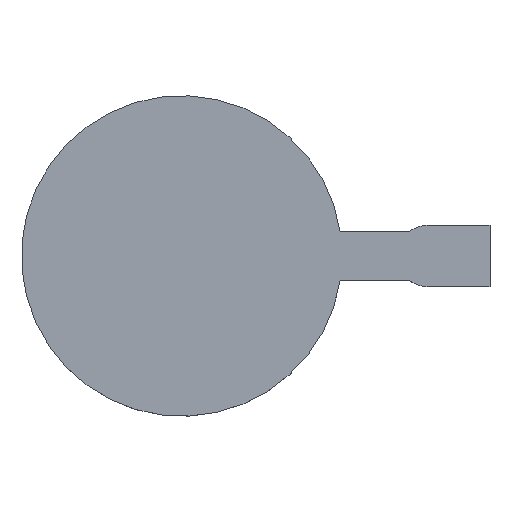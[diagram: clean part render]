
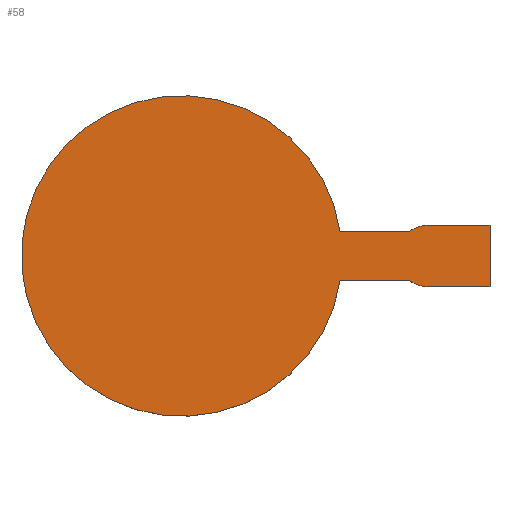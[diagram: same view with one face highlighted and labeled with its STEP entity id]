
A CAD part, top view. The second image highlights one B-rep face of the part: STEP entity #58.
In plain terms, the highlighted planar face has unit normal (0, 0, 1).
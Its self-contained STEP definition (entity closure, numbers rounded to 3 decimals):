
#58 = ADVANCED_FACE( '', ( #130 ), #131, .T. );
#130 = FACE_OUTER_BOUND( '', #216, .T. );
#131 = PLANE( '', #217 );
#216 = EDGE_LOOP( '', ( #326, #327, #328, #329, #330, #331, #332, #333 ) );
#217 = AXIS2_PLACEMENT_3D( '', #334, #335, #336 );
#326 = ORIENTED_EDGE( '', *, *, #505, .T. );
#327 = ORIENTED_EDGE( '', *, *, #509, .T. );
#328 = ORIENTED_EDGE( '', *, *, #510, .T. );
#329 = ORIENTED_EDGE( '', *, *, #511, .T. );
#330 = ORIENTED_EDGE( '', *, *, #495, .T. );
#331 = ORIENTED_EDGE( '', *, *, #512, .T. );
#332 = ORIENTED_EDGE( '', *, *, #513, .T. );
#333 = ORIENTED_EDGE( '', *, *, #514, .T. );
#334 = CARTESIAN_POINT( '', ( -125., -125., 0. ) );
#335 = DIRECTION( '', ( 0., 0., 1. ) );
#336 = DIRECTION( '', ( 0., -1., 0. ) );
#495 = EDGE_CURVE( '', #585, #583, #586, .T. );
#505 = EDGE_CURVE( '', #602, #603, #604, .T. );
#509 = EDGE_CURVE( '', #603, #608, #609, .T. );
#510 = EDGE_CURVE( '', #608, #610, #611, .T. );
#511 = EDGE_CURVE( '', #610, #585, #612, .T. );
#512 = EDGE_CURVE( '', #583, #613, #614, .T. );
#513 = EDGE_CURVE( '', #613, #615, #616, .T. );
#514 = EDGE_CURVE( '', #615, #602, #617, .T. );
#583 = VERTEX_POINT( '', #704 );
#585 = VERTEX_POINT( '', #707 );
#586 = LINE( '', #708, #709 );
#602 = VERTEX_POINT( '', #732 );
#603 = VERTEX_POINT( '', #733 );
#604 = LINE( '', #734, #735 );
#608 = VERTEX_POINT( '', #741 );
#609 = CIRCLE( '', #742, 12.5 );
#610 = VERTEX_POINT( '', #743 );
#611 = LINE( '', #744, #745 );
#612 = CIRCLE( '', #746, 65. );
#613 = VERTEX_POINT( '', #747 );
#614 = CIRCLE( '', #748, 12.5 );
#615 = VERTEX_POINT( '', #749 );
#616 = LINE( '', #750, #751 );
#617 = LINE( '', #752, #753 );
#704 = CARTESIAN_POINT( '', ( 92.5, -10., 0. ) );
#707 = CARTESIAN_POINT( '', ( 64.226, -10., 0. ) );
#708 = CARTESIAN_POINT( '', ( 0., -10., 0. ) );
#709 = VECTOR( '', #840, 1000. );
#732 = CARTESIAN_POINT( '', ( 125., 12.5, 0. ) );
#733 = CARTESIAN_POINT( '', ( 100., 12.5, 0. ) );
#734 = CARTESIAN_POINT( '', ( 148.185, 12.5, 0. ) );
#735 = VECTOR( '', #851, 1000. );
#741 = CARTESIAN_POINT( '', ( 92.5, 10., 0. ) );
#742 = AXIS2_PLACEMENT_3D( '', #854, #855, #856 );
#743 = CARTESIAN_POINT( '', ( 64.226, 10., 0. ) );
#744 = CARTESIAN_POINT( '', ( 100., 10., 0. ) );
#745 = VECTOR( '', #857, 1000. );
#746 = AXIS2_PLACEMENT_3D( '', #858, #859, #860 );
#747 = CARTESIAN_POINT( '', ( 100., -12.5, 0. ) );
#748 = AXIS2_PLACEMENT_3D( '', #861, #862, #863 );
#749 = CARTESIAN_POINT( '', ( 125., -12.5, 0. ) );
#750 = CARTESIAN_POINT( '', ( 100., -12.5, 0. ) );
#751 = VECTOR( '', #864, 1000. );
#752 = CARTESIAN_POINT( '', ( 125., -125., 0. ) );
#753 = VECTOR( '', #865, 1000. );
#840 = DIRECTION( '', ( 1., 0., 0. ) );
#851 = DIRECTION( '', ( -1., 0., 0. ) );
#854 = CARTESIAN_POINT( '', ( 100., 0., 0. ) );
#855 = DIRECTION( '', ( 0., 0., 1. ) );
#856 = DIRECTION( '', ( 0., 1., 0. ) );
#857 = DIRECTION( '', ( -1., 0., 0. ) );
#858 = CARTESIAN_POINT( '', ( 0., 0., 0. ) );
#859 = DIRECTION( '', ( 0., 0., 1. ) );
#860 = DIRECTION( '', ( 1., 0., 0. ) );
#861 = CARTESIAN_POINT( '', ( 100., 0., 0. ) );
#862 = DIRECTION( '', ( 0., 0., 1. ) );
#863 = DIRECTION( '', ( 0., 1., 0. ) );
#864 = DIRECTION( '', ( 1., 0., 0. ) );
#865 = DIRECTION( '', ( 0., 1., 0. ) );
